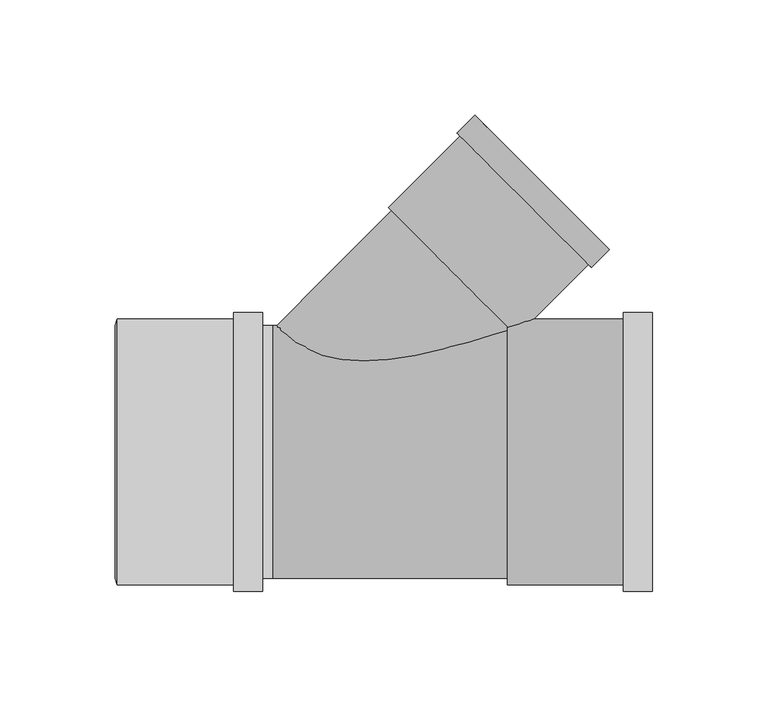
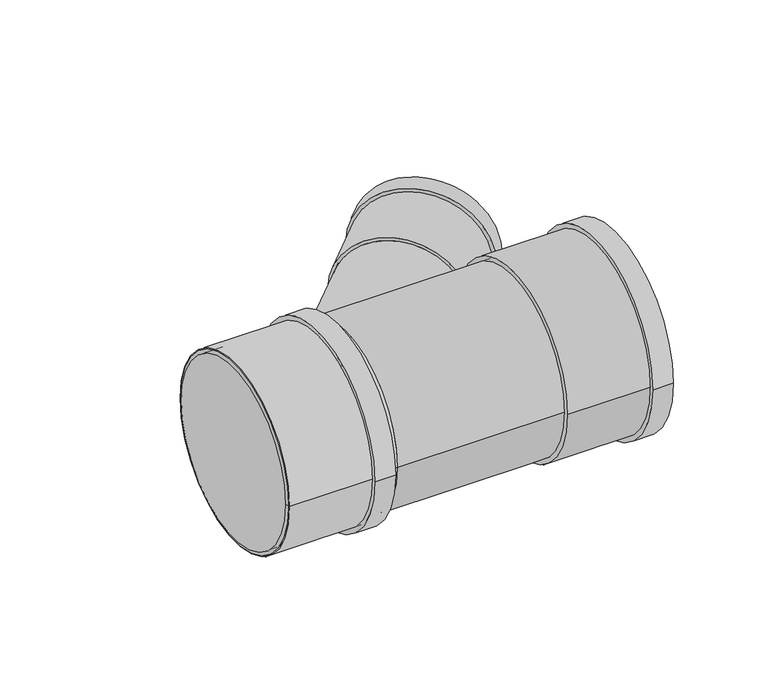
"""IFC4 building model written with IfcOpenShell, lengths in millimetres: pipe fitting geometry, Superdrain HTEA Branch : Superdrain HTEA Branch."""

from ifc_helpers import new_model, si_unit, point, frame, origin, origin_2d, place, context, project, spatial, polyline, circle_curve, trimmed, segment, composite_curve, outline, extrude, source, transform, mapped, element, save
from ifc_brep_helpers import plane_surface, cylinder_surface, revolved_surface, advanced_brep


def pipe_fitting_e3276c1b(model_context):
    return source(origin(), model_context, "Body", "SolidModel", [
        extrude(outline(composite_curve([segment(trimmed(circle_curve(origin_2d(), 57.75), [point((57.75, 0.0))], [point((-57.75, 0.0))], False, "CARTESIAN"), True, "CONTINUOUS"), segment(trimmed(circle_curve(origin_2d(), 57.75), [point((-57.75, 0.0))], [point((57.75, 0.0))], False, "CARTESIAN"), True, "CONTINUOUS")], self_intersect=False), holes=[composite_curve([segment(trimmed(circle_curve(origin_2d(), 55.0), [point((55.0, 0.0))], [point((-55.0, 0.0))], True, "CARTESIAN"), True, "CONTINUOUS"), segment(trimmed(circle_curve(origin_2d(), 55.0), [point((-55.0, 0.0))], [point((55.0, 0.0))], True, "CARTESIAN"), True, "CONTINUOUS")], self_intersect=False)]), frame((-67.4, 0.0, 0.0), z_axis=(1.0, 0.0, 0.0), x_axis=(0.0, 1.0, 0.0)), (0.0, 0.0, 1.0), 63.0),
        extrude(outline(composite_curve([segment(trimmed(circle_curve(origin_2d(), 60.6375), [point((60.6375, 0.0))], [point((-60.6375, 0.0))], False, "CARTESIAN"), True, "CONTINUOUS"), segment(trimmed(circle_curve(origin_2d(), 60.6375), [point((-60.6375, 0.0))], [point((60.6375, 0.0))], False, "CARTESIAN"), True, "CONTINUOUS")], self_intersect=False), holes=[composite_curve([segment(trimmed(circle_curve(origin_2d(), 55.0), [point((55.0, 0.0))], [point((-55.0, 0.0))], True, "CARTESIAN"), True, "CONTINUOUS"), segment(trimmed(circle_curve(origin_2d(), 55.0), [point((-55.0, 0.0))], [point((55.0, 0.0))], True, "CARTESIAN"), True, "CONTINUOUS")], self_intersect=False)]), frame((-17.0, 0.0, 0.0), z_axis=(1.0, 0.0, 0.0), x_axis=(0.0, 1.0, 0.0)), (0.0, 0.0, 1.0), 12.6),
        advanced_brep(
        [(-68.4, 55.0, 0.0), (-68.4, -55.0, 0.0), (-67.4, 57.75, 0.0), (-67.4, -57.75, 0.0)],
        [
            (0, 1, circle_curve(frame((-68.4, 0.0, 0.0), z_axis=(-1.0, 0.0, 0.0), x_axis=(0.0, 1.0, 0.0)), 55.0)),
            (1, 0, circle_curve(frame((-68.4, 0.0, 0.0), z_axis=(-1.0, 0.0, 0.0), x_axis=(0.0, -1.0, 0.0)), 55.0)),
            (2, 3, circle_curve(frame((-67.4, 0.0, 0.0), z_axis=(1.0, 0.0, 0.0), x_axis=(0.0, -1.0, 0.0)), 57.75)),
            (3, 2, circle_curve(frame((-67.4, 0.0, 0.0), z_axis=(1.0, 0.0, 0.0), x_axis=(0.0, 1.0, 0.0)), 57.75)),
            (3, 1),
            (0, 2),
        ],
        [
            plane_surface(frame((-68.4, 0.0, 0.0), z_axis=(-1.0, 0.0, 0.0), x_axis=(0.0, 0.0, -1.0))),
            plane_surface(frame((-67.4, 0.0, 0.0), z_axis=(1.0, 0.0, 0.0), x_axis=(0.0, 0.0, -1.0))),
            revolved_surface(polyline([(-68.4, 55.0, 0.0), (-67.4, 57.75, 0.0)]), (-88.4, 0.0, 0.0), (1.0, 0.0, 0.0)),
            revolved_surface(polyline([(-68.4, -55.0, 0.0), (-67.4, -57.75, 0.0)]), (-88.4, 0.0, 0.0), (1.0, 0.0, 0.0)),
        ],
        [
            (0, [[1, 2]]),
            (1, [[3, 4]]),
            (2, [[-4, 5, -1, 6]]),
            (3, [[-3, -6, -2, -5]]),
        ],
    ),
        advanced_brep(
        [(102.1, -57.75, 0.0), (102.1, 57.75, 0.0), (165.1, -57.75, 0.0), (165.1, 57.75, 0.0), (165.1, -55.0, 0.0), (165.1, 55.0, 0.0), (103.1, -55.0, 0.0), (103.1, 55.0, 0.0)],
        [
            (0, 1, circle_curve(frame((102.1, 0.0, 0.0), z_axis=(-1.0, 0.0, 0.0), x_axis=(0.0, 1.0, 0.0)), 57.75)),
            (1, 0, circle_curve(frame((102.1, 0.0, 0.0), z_axis=(-1.0, 0.0, 0.0), x_axis=(0.0, 1.0, 0.0)), 57.75)),
            (2, 3, circle_curve(frame((165.1, 0.0, 0.0), z_axis=(1.0, 0.0, 0.0), x_axis=(0.0, 1.0, 0.0)), 57.75)),
            (3, 2, circle_curve(frame((165.1, 0.0, 0.0), z_axis=(1.0, 0.0, 0.0), x_axis=(0.0, 1.0, 0.0)), 57.75)),
            (4, 5, circle_curve(frame((165.1, 0.0, 0.0), z_axis=(-1.0, 0.0, 0.0), x_axis=(0.0, 1.0, 0.0)), 55.0)),
            (5, 4, circle_curve(frame((165.1, 0.0, 0.0), z_axis=(-1.0, 0.0, 0.0), x_axis=(0.0, 1.0, 0.0)), 55.0)),
            (0, 2),
            (3, 1),
            (6, 7, circle_curve(frame((103.1, 0.0, 0.0), z_axis=(-1.0, 0.0, 0.0), x_axis=(0.0, 1.0, 0.0)), 55.0)),
            (7, 5),
            (4, 6),
            (7, 6, circle_curve(frame((103.1, 0.0, 0.0), z_axis=(-1.0, 0.0, 0.0), x_axis=(0.0, 1.0, 0.0)), 55.0)),
        ],
        [
            plane_surface(frame((102.1, 0.0, 0.0), z_axis=(-1.0, 0.0, 0.0), x_axis=(0.0, 0.0, 1.0))),
            plane_surface(frame((165.1, 0.0, 0.0), z_axis=(1.0, 0.0, 0.0), x_axis=(0.0, 0.0, 1.0))),
            cylinder_surface(frame((102.1, 0.0, 0.0), z_axis=(-1.0, 0.0, 0.0), x_axis=(0.0, 1.0, 0.0)), 57.75),
            revolved_surface(polyline([(103.1, 55.0, 0.0), (165.1, 55.0, 0.0)]), (103.1, 0.0, 0.0), (-1.0, 0.0, 0.0)),
            plane_surface(frame((103.1, 0.0, 0.0), z_axis=(1.0, 0.0, 0.0), x_axis=(0.0, 0.0, 1.0))),
        ],
        [
            (0, [[1, 2]]),
            (1, [[3, 4], [5, 6]]),
            (2, [[-1, 7, -4, 8]]),
            (2, [[-2, -8, -3, -7]]),
            (3, [[9, 10, -5, 11]]),
            (3, [[12, -11, -6, -10]]),
            (4, [[-12, -9]]),
        ],
    ),
        extrude(outline(composite_curve([segment(trimmed(circle_curve(origin_2d(), 60.6375), [point((60.6375, 0.0))], [point((-60.6375, 0.0))], False, "CARTESIAN"), True, "CONTINUOUS"), segment(trimmed(circle_curve(origin_2d(), 60.6375), [point((-60.6375, 0.0))], [point((60.6375, 0.0))], False, "CARTESIAN"), True, "CONTINUOUS")], self_intersect=False), holes=[composite_curve([segment(trimmed(circle_curve(origin_2d(), 55.0), [point((55.0, 0.0))], [point((-55.0, 0.0))], True, "CARTESIAN"), True, "CONTINUOUS"), segment(trimmed(circle_curve(origin_2d(), 55.0), [point((-55.0, 0.0))], [point((55.0, 0.0))], True, "CARTESIAN"), True, "CONTINUOUS")], self_intersect=False)]), frame((152.5, 0.0, 0.0), z_axis=(1.0, 0.0, 0.0), x_axis=(0.0, 1.0, 0.0)), (0.0, 0.0, 1.0), 12.6),
        extrude(outline(composite_curve([segment(trimmed(circle_curve(origin_2d(), 37.5), [point((0.0, 37.5))], [point((0.0, -37.5))], False, "CARTESIAN"), True, "CONTINUOUS"), segment(trimmed(circle_curve(origin_2d(), 37.5), [point((0.0, -37.5))], [point((0.0, 37.5))], False, "CARTESIAN"), True, "CONTINUOUS")], self_intersect=False)), frame((0.0, 0.0, 0.0), z_axis=(0.7071067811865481, 0.707106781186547, 0.0), x_axis=(0.0, 0.0, 1.0)), (0.0, 0.0, 1.0), 110.7),
        extrude(outline(composite_curve([segment(trimmed(circle_curve(origin_2d(), 55.0), [point((55.0, 0.0))], [point((-55.0, 0.0))], False, "CARTESIAN"), True, "CONTINUOUS"), segment(trimmed(circle_curve(origin_2d(), 55.0), [point((-55.0, 0.0))], [point((55.0, 0.0))], False, "CARTESIAN"), True, "CONTINUOUS")], self_intersect=False)), frame((-67.4, 0.0, 0.0), z_axis=(1.0, 0.0, 0.0), x_axis=(0.0, 1.0, 0.0)), (0.0, 0.0, 1.0), 67.4),
        extrude(outline(composite_curve([segment(trimmed(circle_curve(origin_2d(), 55.0), [point((-55.0, 0.0))], [point((55.0, 0.0))], False, "CARTESIAN"), True, "CONTINUOUS"), segment(trimmed(circle_curve(origin_2d(), 55.0), [point((55.0, 0.0))], [point((-55.0, 0.0))], False, "CARTESIAN"), True, "CONTINUOUS")], self_intersect=False)), frame((0.0, 0.0, 0.0), z_axis=(1.0, 0.0, 0.0), x_axis=(0.0, 1.0, 0.0)), (0.0, 0.0, 1.0), 102.1),
        extrude(outline(composite_curve([segment(trimmed(circle_curve(origin_2d(), 41.34375), [point((0.0, 41.34375))], [point((0.0, -41.34375))], False, "CARTESIAN"), True, "CONTINUOUS"), segment(trimmed(circle_curve(origin_2d(), 41.34375), [point((0.0, -41.34375))], [point((0.0, 41.34375))], False, "CARTESIAN"), True, "CONTINUOUS")], self_intersect=False), holes=[composite_curve([segment(trimmed(circle_curve(origin_2d(), 37.5), [point((0.0, 37.4999999))], [point((0.0, -37.4999999))], True, "CARTESIAN"), True, "CONTINUOUS"), segment(trimmed(circle_curve(origin_2d(), 37.5), [point((0.0, -37.4999999))], [point((0.0, 37.4999999))], True, "CARTESIAN"), True, "CONTINUOUS")], self_intersect=False)]), frame((109.389419, 109.389419, 0.0), z_axis=(0.7071067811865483, 0.7071067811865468, 0.0), x_axis=(0.0, 0.0, 1.0)), (0.0, 0.0, 1.0), 11.0),
        extrude(outline(composite_curve([segment(trimmed(circle_curve(origin_2d(), 39.375), [point((0.0, 39.375))], [point((0.0, -39.375))], False, "CARTESIAN"), True, "CONTINUOUS"), segment(trimmed(circle_curve(origin_2d(), 39.375), [point((0.0, -39.375))], [point((0.0, 39.375))], False, "CARTESIAN"), True, "CONTINUOUS")], self_intersect=False), holes=[composite_curve([segment(trimmed(circle_curve(origin_2d(), 37.5), [point((0.0, 37.5))], [point((0.0, -37.5))], True, "CARTESIAN"), True, "CONTINUOUS"), segment(trimmed(circle_curve(origin_2d(), 37.5), [point((0.0, -37.5))], [point((0.0, 37.5))], True, "CARTESIAN"), True, "CONTINUOUS")], self_intersect=False)]), frame((78.2767207, 78.2767207, 0.0), z_axis=(0.707106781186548, 0.7071067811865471, 0.0), x_axis=(0.0, 0.0, 1.0)), (0.0, 0.0, 1.0), 55.0),
    ])


if __name__ == "__main__":
    model = new_model("IFC4")
    model_context = context("Model", 3, world=origin())
    ifc_project = project(units=[si_unit("LENGTHUNIT", "METRE", prefix="MILLI")], contexts=[model_context])
    site = spatial("IfcSite", under=ifc_project)
    building = spatial("IfcBuilding", under=site)
    placement = place(None, origin())
    pipe_fitting_shape = pipe_fitting_e3276c1b(model_context)
    element("IfcPipeFitting", 1, ObjectType="Superdrain HTEA Branch : Superdrain HTEA Branch", at=placement, inside=building, context=model_context, shape_type="MappedRepresentation", body=[
        mapped(pipe_fitting_shape, transform((0.0, 0.0, 0.0), x_axis=(1.0, 0.0, 0.0), y_axis=(0.0, 1.0, 0.0), z_axis=(0.0, 0.0, 1.0))),
    ])
    save(model, "model.ifc")
